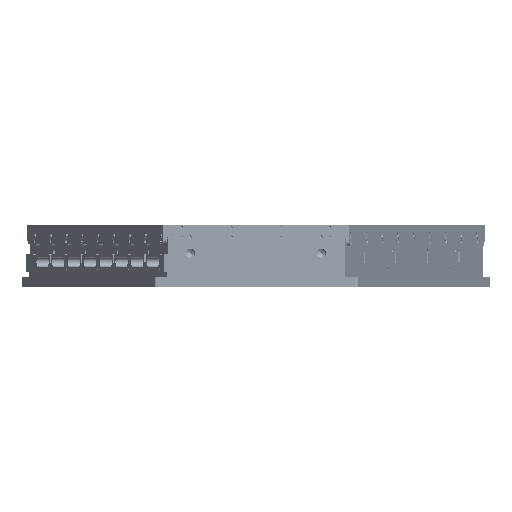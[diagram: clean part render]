
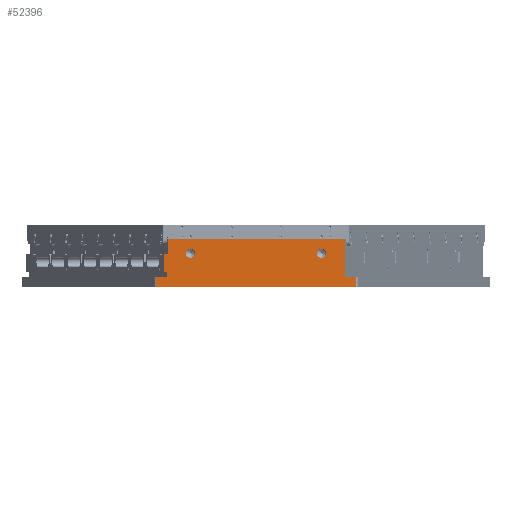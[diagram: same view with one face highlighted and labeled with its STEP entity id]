
A CAD part, front view. The second image highlights one B-rep face of the part: STEP entity #52396.
In plain terms, the highlighted planar face has unit normal (0, -1, 0).
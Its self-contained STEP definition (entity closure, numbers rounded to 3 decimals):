
#6866=DIRECTION('',(-1.,0.,0.));
#6867=VECTOR('',#6866,10.637);
#6868=CARTESIAN_POINT('',(5.319,-27.373,-3.3));
#6869=LINE('',#6868,#6867);
#9877=DIRECTION('',(0.,0.,-1.));
#9878=VECTOR('',#9877,0.78);
#9879=CARTESIAN_POINT('',(-4.718,-27.373,-0.75));
#9880=LINE('',#9879,#9878);
#10915=DIRECTION('',(0.,0.,1.));
#10916=VECTOR('',#10915,2.032);
#10917=CARTESIAN_POINT('',(4.772,-27.373,-2.782));
#10918=LINE('',#10917,#10916);
#13748=DIRECTION('',(-1.,0.,0.));
#13749=VECTOR('',#13748,0.546);
#13750=CARTESIAN_POINT('',(-4.773,-27.373,-2.782));
#13751=LINE('',#13750,#13749);
#13779=DIRECTION('',(-1.,0.,0.));
#13780=VECTOR('',#13779,0.546);
#13781=CARTESIAN_POINT('',(5.319,-27.373,-2.782));
#13782=LINE('',#13781,#13780);
#13814=CARTESIAN_POINT('',(3.5,-27.373,-1.5));
#13815=DIRECTION('',(0.,-1.,0.));
#13816=DIRECTION('',(-1.,0.,0.));
#13817=AXIS2_PLACEMENT_3D('',#13814,#13815,#13816);
#13822=CARTESIAN_POINT('',(3.5,-27.373,-1.5));
#13823=DIRECTION('',(0.,-1.,0.));
#13824=DIRECTION('',(1.,0.,0.));
#13825=AXIS2_PLACEMENT_3D('',#13822,#13823,#13824);
#13830=CARTESIAN_POINT('',(-3.5,-27.373,-1.5));
#13831=DIRECTION('',(0.,1.,0.));
#13832=DIRECTION('',(1.,0.,0.));
#13833=AXIS2_PLACEMENT_3D('',#13830,#13831,#13832);
#13838=CARTESIAN_POINT('',(-3.5,-27.373,-1.5));
#13839=DIRECTION('',(0.,1.,0.));
#13840=DIRECTION('',(-1.,0.,0.));
#13841=AXIS2_PLACEMENT_3D('',#13838,#13839,#13840);
#13846=DIRECTION('',(1.,0.,0.));
#13847=VECTOR('',#13846,9.491);
#13848=CARTESIAN_POINT('',(-4.718,-27.373,-0.75));
#13849=LINE('',#13848,#13847);
#13853=DIRECTION('',(0.,0.,-1.));
#13854=VECTOR('',#13853,0.518);
#13855=CARTESIAN_POINT('',(5.319,-27.373,-2.782));
#13856=LINE('',#13855,#13854);
#13860=DIRECTION('',(0.,0.,-1.));
#13861=VECTOR('',#13860,0.518);
#13862=CARTESIAN_POINT('',(-5.319,-27.373,-2.782));
#13863=LINE('',#13862,#13861);
#13867=DIRECTION('',(0.,0.,-1.));
#13868=VECTOR('',#13867,0.3);
#13869=CARTESIAN_POINT('',(-4.773,-27.373,-2.482));
#13870=LINE('',#13869,#13868);
#13874=DIRECTION('',(-1.,0.,0.));
#13875=VECTOR('',#13874,0.153);
#13876=CARTESIAN_POINT('',(-4.773,-27.373,-2.482));
#13877=LINE('',#13876,#13875);
#13881=DIRECTION('',(0.,0.,-1.));
#13882=VECTOR('',#13881,0.952);
#13883=CARTESIAN_POINT('',(-4.925,-27.373,-1.53));
#13884=LINE('',#13883,#13882);
#13888=DIRECTION('',(-1.,0.,0.));
#13889=VECTOR('',#13888,0.207);
#13890=CARTESIAN_POINT('',(-4.718,-27.373,-1.53));
#13891=LINE('',#13890,#13889);
#38588=CARTESIAN_POINT('',(4.772,-27.373,-2.782));
#38590=VERTEX_POINT('',#38588);
#38591=CARTESIAN_POINT('',(-4.773,-27.373,-2.482));
#38592=CARTESIAN_POINT('',(-4.773,-27.373,-2.782));
#38593=VERTEX_POINT('',#38591);
#38594=VERTEX_POINT('',#38592);
#38595=CARTESIAN_POINT('',(-4.925,-27.373,-2.482));
#38596=VERTEX_POINT('',#38595);
#38603=CARTESIAN_POINT('',(-4.718,-27.373,-1.53));
#38604=CARTESIAN_POINT('',(-4.925,-27.373,-1.53));
#38605=VERTEX_POINT('',#38603);
#38606=VERTEX_POINT('',#38604);
#41369=CARTESIAN_POINT('',(3.25,-27.373,-1.5));
#41370=CARTESIAN_POINT('',(3.75,-27.373,-1.5));
#41371=VERTEX_POINT('',#41369);
#41372=VERTEX_POINT('',#41370);
#41383=CARTESIAN_POINT('',(-3.25,-27.373,-1.5));
#41384=VERTEX_POINT('',#41383);
#41385=CARTESIAN_POINT('',(-3.75,-27.373,-1.5));
#41386=VERTEX_POINT('',#41385);
#43883=CARTESIAN_POINT('',(-5.319,-27.373,-3.3));
#43885=VERTEX_POINT('',#43883);
#43889=CARTESIAN_POINT('',(-5.319,-27.373,-2.782));
#43890=VERTEX_POINT('',#43889);
#43892=CARTESIAN_POINT('',(5.319,-27.373,-3.3));
#43894=VERTEX_POINT('',#43892);
#43895=CARTESIAN_POINT('',(5.319,-27.373,-2.782));
#43896=VERTEX_POINT('',#43895);
#43953=CARTESIAN_POINT('',(-4.718,-27.373,-0.75));
#43954=CARTESIAN_POINT('',(4.772,-27.373,-0.75));
#43955=VERTEX_POINT('',#43953);
#43956=VERTEX_POINT('',#43954);
#52360=CARTESIAN_POINT('',(-5.415,-27.373,0.));
#52361=DIRECTION('',(0.,-1.,0.));
#52362=DIRECTION('',(1.,0.,0.));
#52363=AXIS2_PLACEMENT_3D('',#52360,#52361,#52362);
#52364=PLANE('',#52363);
#52365=ORIENTED_EDGE('',*,*,#49182,.F.);
#52367=ORIENTED_EDGE('',*,*,#52366,.T.);
#52368=ORIENTED_EDGE('',*,*,#49558,.F.);
#52369=ORIENTED_EDGE('',*,*,#52327,.F.);
#52371=ORIENTED_EDGE('',*,*,#52370,.T.);
#52372=ORIENTED_EDGE('',*,*,#47263,.T.);
#52374=ORIENTED_EDGE('',*,*,#52373,.F.);
#52375=ORIENTED_EDGE('',*,*,#52303,.F.);
#52376=ORIENTED_EDGE('',*,*,#52339,.F.);
#52378=ORIENTED_EDGE('',*,*,#52377,.T.);
#52379=ORIENTED_EDGE('',*,*,#48702,.F.);
#52381=ORIENTED_EDGE('',*,*,#52380,.F.);
#52382=EDGE_LOOP('',(#52365,#52367,#52368,#52369,#52371,#52372,#52374,#52375,
#52376,#52378,#52379,#52381));
#52383=FACE_OUTER_BOUND('',#52382,.F.);
#52385=ORIENTED_EDGE('',*,*,#52384,.F.);
#52387=ORIENTED_EDGE('',*,*,#52386,.F.);
#52388=EDGE_LOOP('',(#52385,#52387));
#52389=FACE_BOUND('',#52388,.F.);
#52391=ORIENTED_EDGE('',*,*,#52390,.T.);
#52393=ORIENTED_EDGE('',*,*,#52392,.T.);
#52394=EDGE_LOOP('',(#52391,#52393));
#52395=FACE_BOUND('',#52394,.F.);
#52396=ADVANCED_FACE('',(#52383,#52389,#52395),#52364,.T.);
#13818=CIRCLE('',#13817,0.25);
#13826=CIRCLE('',#13825,0.25);
#13834=CIRCLE('',#13833,0.25);
#13842=CIRCLE('',#13841,0.25);
#47263=EDGE_CURVE('',#43894,#43885,#6869,.T.);
#48702=EDGE_CURVE('',#38606,#38596,#13884,.T.);
#49182=EDGE_CURVE('',#43955,#38605,#9880,.T.);
#49558=EDGE_CURVE('',#38590,#43956,#10918,.T.);
#52303=EDGE_CURVE('',#38594,#43890,#13751,.T.);
#52327=EDGE_CURVE('',#43896,#38590,#13782,.T.);
#52339=EDGE_CURVE('',#38593,#38594,#13870,.T.);
#52366=EDGE_CURVE('',#43955,#43956,#13849,.T.);
#52370=EDGE_CURVE('',#43896,#43894,#13856,.T.);
#52373=EDGE_CURVE('',#43890,#43885,#13863,.T.);
#52377=EDGE_CURVE('',#38593,#38596,#13877,.T.);
#52380=EDGE_CURVE('',#38605,#38606,#13891,.T.);
#52384=EDGE_CURVE('',#41384,#41386,#13834,.T.);
#52386=EDGE_CURVE('',#41386,#41384,#13842,.T.);
#52390=EDGE_CURVE('',#41371,#41372,#13818,.T.);
#52392=EDGE_CURVE('',#41372,#41371,#13826,.T.);
